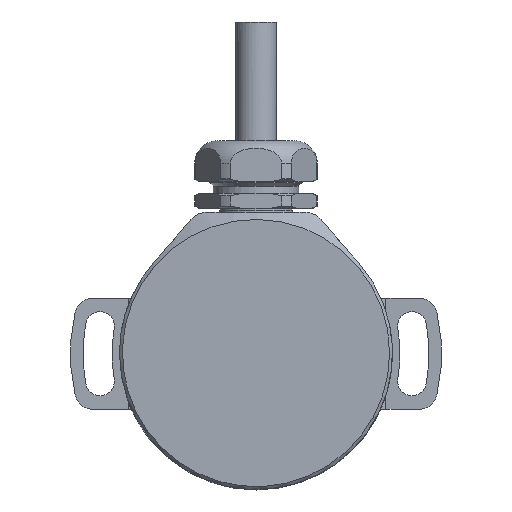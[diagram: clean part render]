
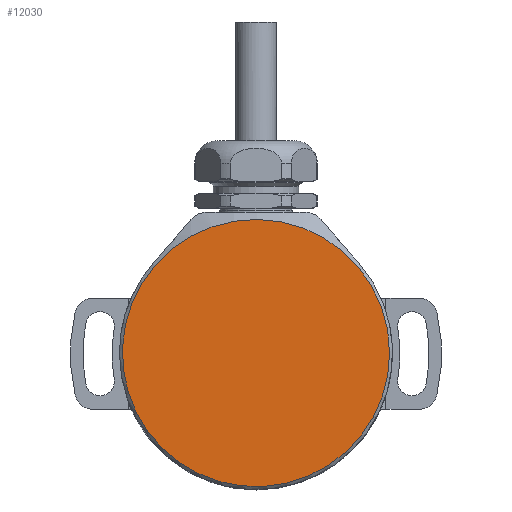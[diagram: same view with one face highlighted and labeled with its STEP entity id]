
A CAD part, top view. The second image highlights one B-rep face of the part: STEP entity #12030.
In plain terms, the highlighted planar face has unit normal (0, 0, 1).
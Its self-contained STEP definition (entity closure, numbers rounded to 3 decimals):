
#109=PLANE('',#12707);
#2330=ORIENTED_EDGE('',*,*,#4430,.T.);
#4430=EDGE_CURVE('',#5531,#5531,#6282,.T.);
#5531=VERTEX_POINT('',#16998);
#6282=CIRCLE('',#12708,18.);
#6755=EDGE_LOOP('',(#2330));
#7489=FACE_BOUND('',#6755,.T.);
#12030=ADVANCED_FACE('',(#7489),#109,.T.);
#12707=AXIS2_PLACEMENT_3D('',#16996,#14020,#14021);
#12708=AXIS2_PLACEMENT_3D('',#16997,#14022,#14023);
#14020=DIRECTION('',(0.,0.,1.));
#14021=DIRECTION('',(1.,0.,0.));
#14022=DIRECTION('',(0.,0.,1.));
#14023=DIRECTION('',(1.,0.,0.));
#16996=CARTESIAN_POINT('',(0.,0.,48.1));
#16997=CARTESIAN_POINT('',(0.,0.,48.1));
#16998=CARTESIAN_POINT('',(18.,0.,48.1));
